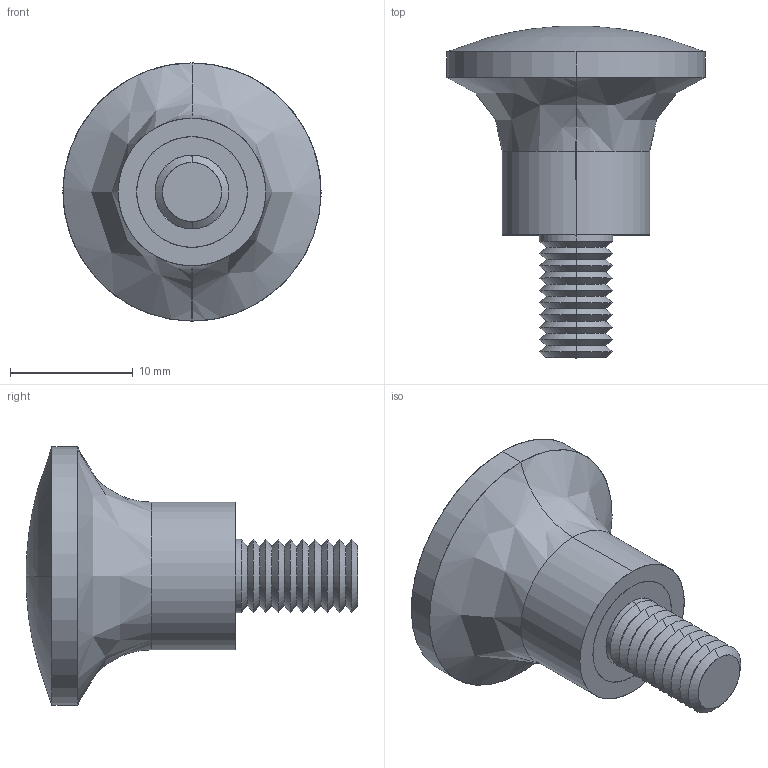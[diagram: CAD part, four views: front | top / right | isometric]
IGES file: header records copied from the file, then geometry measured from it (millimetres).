
Start section: SolidWorks IGES file using analytic representation for surfaces
Global section: file name: C:\Users\IanO\Desktop\Temp File\Process pending\73200_v2\73200_v2_20171103_IGES\73200.W0121.igs; native system: SolidWorks 2017; preprocessor: SolidWorks 2017; author: IanO; date: 171103.111755; units: millimetre
Bounding box: 21 x 27 x 21 mm (x, y, z)
Surface area: 2416.4 mm2 (no closed solid volume)
Topology: 0 solids, 0 shells, 71 faces, 676 edges, 671 vertices
Faces by surface type: revolution 62, bspline 9
